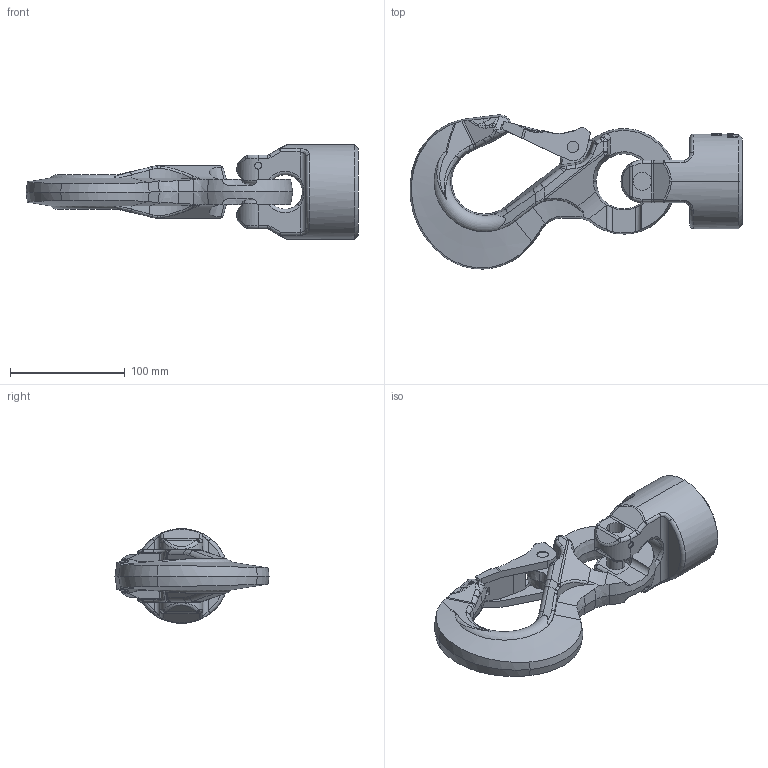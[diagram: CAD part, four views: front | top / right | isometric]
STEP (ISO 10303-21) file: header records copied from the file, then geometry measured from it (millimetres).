
FILE_DESCRIPTION((''),'2;1');
FILE_NAME('001-M31395-P-50_ASM','2018-04-26T',('Anja.Joas'),(''),'PRO/ENGINEER BY PARAMETRIC TECHNOLOGY CORPORATION, 2011490','PRO/ENGINEER BY PARAMETRIC TECHNOLOGY CORPORATION, 2011490','');
FILE_SCHEMA(('CONFIG_CONTROL_DESIGN'));
Length unit declared in the file: millimetre
Products named in the file (5): 001-M31395-P-20_AF0; 001-M31479-001; 001-M31480-001; 001-M31479-002_ASM; 001-M31395-P-50_ASM
Assembly tree (4 placements, depth 3):
  001-M31395-P-50_ASM
    001-M31395-P-20_AF0
    001-M31479-002_ASM
      001-M31479-001
      001-M31480-001
Bounding box: 289.38 x 134.49 x 82.5 mm (x, y, z)
Volume: 719491.7 mm3; surface area: 97696 mm2
Topology: 3 solids, 3 shells, 708 faces, 1878 edges, 1176 vertices
Faces by surface type: plane 376, cylinder 128, bspline 88, sphere 42, cone 38, torus 36
Entity records: 26573 total; most frequent: CARTESIAN_POINT 10163, ORIENTED_EDGE 3700, DIRECTION 2995, EDGE_CURVE 1850, VERTEX_POINT 1176, AXIS2_PLACEMENT_3D 1089, VECTOR 817, LINE 817
